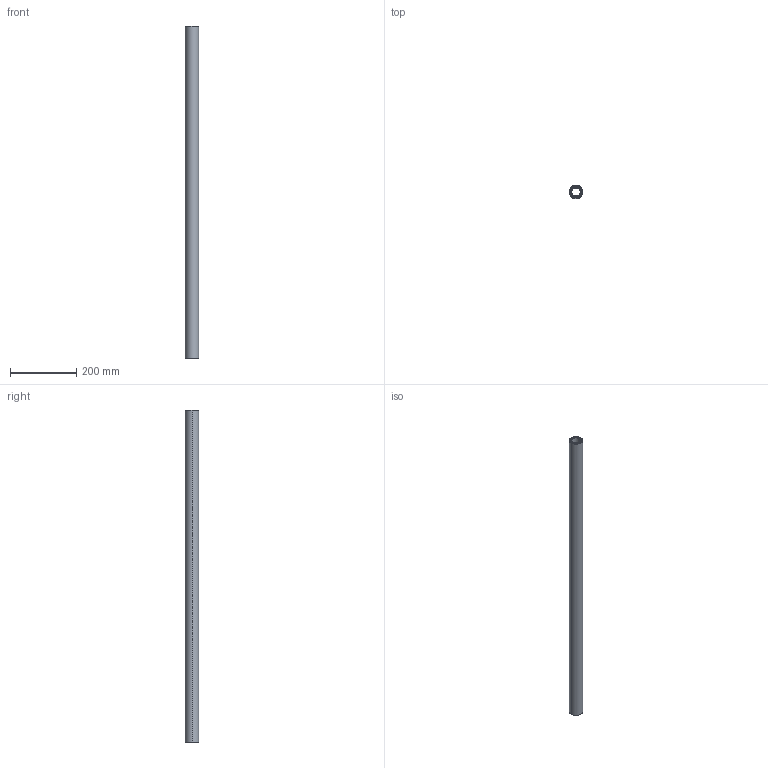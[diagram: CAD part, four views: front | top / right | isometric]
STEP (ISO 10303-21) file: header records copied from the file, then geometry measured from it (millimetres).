
FILE_DESCRIPTION (( 'STEP AP203' ), '1' );
FILE_NAME ('KP_40-32SCEC.step', '2011-08-08T11:50:27', ( '' ), ( '' ), 'SwSTEP 2.0', 'SolidWorks 2011', '' );
FILE_SCHEMA (( 'CONFIG_CONTROL_DESIGN' ));
Length unit declared in the file: millimetre
Products named in the file (1): KP_40-32SCEC
Bounding box: 40 x 40 x 1000 mm (x, y, z)
Volume: 589854.4 mm3; surface area: 427999 mm2
Topology: 2 solids, 2 shells, 31 faces, 79 edges, 54 vertices
Faces by surface type: cylinder 25, plane 6
Entity records: 1062 total; most frequent: DIRECTION 197, CARTESIAN_POINT 165, ORIENTED_EDGE 158, AXIS2_PLACEMENT_3D 86, EDGE_CURVE 79, CIRCLE 54, VERTEX_POINT 54, EDGE_LOOP 37
